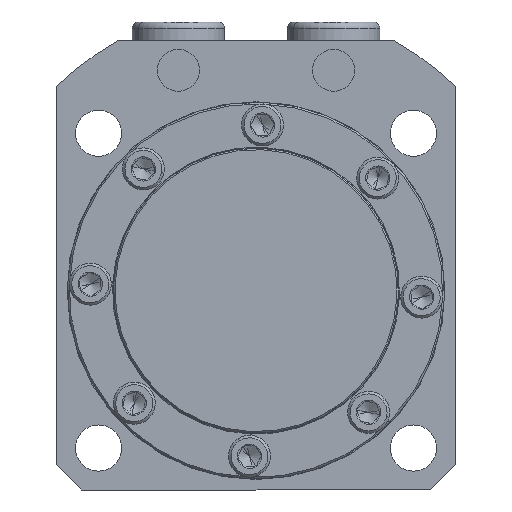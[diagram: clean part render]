
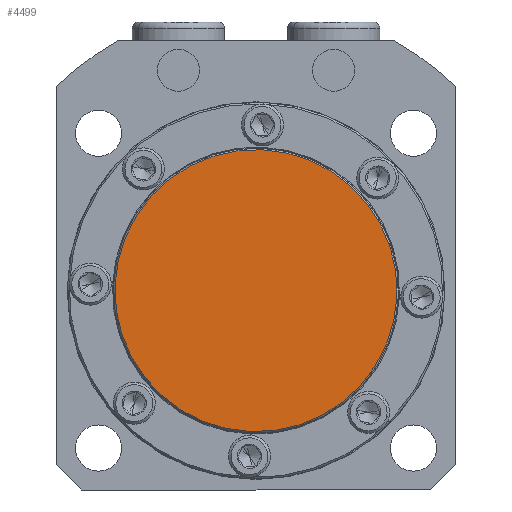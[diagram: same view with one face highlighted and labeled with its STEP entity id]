
A CAD part, front view. The second image highlights one B-rep face of the part: STEP entity #4499.
In plain terms, the highlighted planar face has unit normal (0, -1, 0).
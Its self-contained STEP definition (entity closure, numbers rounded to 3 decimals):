
#703 = EDGE_LOOP ( 'NONE', ( #5230, #5220 ) ) ;
#1713 = VERTEX_POINT ( 'NONE', #3627 ) ;
#1718 = VERTEX_POINT ( 'NONE', #3632 ) ;
#2465 = CIRCLE ( 'NONE', #2470, 33.6 ) ;
#2470 = AXIS2_PLACEMENT_3D ( 'NONE', #5357, #5358, #5359 ) ;
#2541 = AXIS2_PLACEMENT_3D ( 'NONE', #5558, #5570, #5571 ) ;
#2598 = CIRCLE ( 'NONE', #2601, 33.6 ) ;
#2601 = AXIS2_PLACEMENT_3D ( 'NONE', #5764, #5765, #5766 ) ;
#3627 = CARTESIAN_POINT ( 'NONE',  ( 0., -13., 33.6 ) ) ;
#3632 = CARTESIAN_POINT ( 'NONE',  ( 0., -13., -33.6 ) ) ;
#3844 = EDGE_CURVE ( 'NONE', #1718, #1713, #2465, .T. ) ;
#4499 = ADVANCED_FACE ( 'NONE', ( #5566 ), #5567, .T. ) ;
#5022 = EDGE_CURVE ( 'NONE', #1713, #1718, #2598, .T. ) ;
#5220 = ORIENTED_EDGE ( 'NONE', *, *, #3844, .T. ) ;
#5230 = ORIENTED_EDGE ( 'NONE', *, *, #5022, .T. ) ;
#5357 = CARTESIAN_POINT ( 'NONE',  ( 0., -13., 0. ) ) ;
#5358 = DIRECTION ( 'NONE',  ( 0., -1., 0. ) ) ;
#5359 = DIRECTION ( 'NONE',  ( 0., 0., -1. ) ) ;
#5558 = CARTESIAN_POINT ( 'NONE',  ( 0., -13., 0. ) ) ;
#5566 = FACE_OUTER_BOUND ( 'NONE', #703, .T. ) ;
#5567 = PLANE ( 'NONE',  #2541 ) ;
#5570 = DIRECTION ( 'NONE',  ( 0., -1., 0. ) ) ;
#5571 = DIRECTION ( 'NONE',  ( 0., 0., -1. ) ) ;
#5764 = CARTESIAN_POINT ( 'NONE',  ( 0., -13., 0. ) ) ;
#5765 = DIRECTION ( 'NONE',  ( 0., -1., 0. ) ) ;
#5766 = DIRECTION ( 'NONE',  ( 0., 0., -1. ) ) ;
